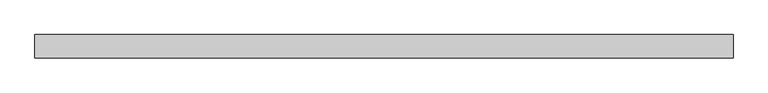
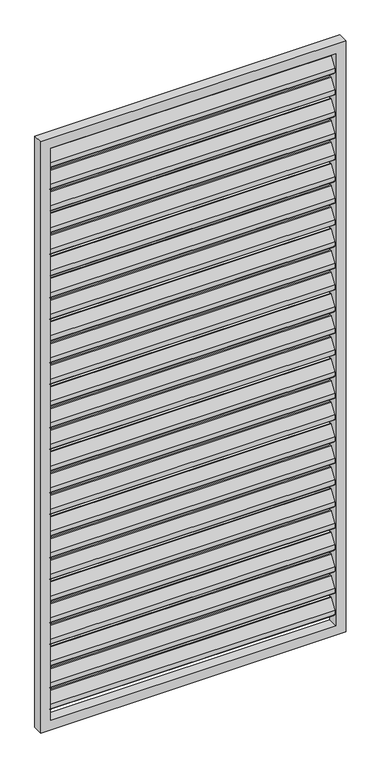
"""IFC4 building model written with IfcOpenShell, lengths in millimetres: proxy geometry, Renson_Amani_Loggia_Paro_Aluminium_Fix : Renson_Amani_Loggia_Paro_Aluminium_Fix."""

from ifc_helpers import new_model, si_unit, point, frame, frame_2d, origin, place, context, project, spatial, polyline, circle_curve, trimmed, segment, composite_curve, outline, extrude, source, transform, mapped, element, save


def generic_models_106a7d22(model_context):
    return source(origin(), model_context, "Body", "SweptSolid", [
        extrude(outline(composite_curve([segment(trimmed(circle_curve(frame_2d((12.6675921, 2432.6587719)), 3.0), [point((10.1515804, 2434.292689))], [point((15.6675921, 2432.6587719))], False, "CARTESIAN"), True, "CONTINUOUS"), segment(polyline([(15.6675921, 2432.6587719), (15.6675921, 2414.2979873)]), True, "CONTINUOUS"), segment(trimmed(circle_curve(frame_2d((12.6675921, 2414.2979873)), 3.0), [point((15.6675921, 2414.2979873))], [point((15.1836038, 2412.6640702))], False, "CARTESIAN"), True, "CONTINUOUS"), segment(polyline([(15.1836038, 2412.6640702), (-8.8163962, 2375.707311)]), True, "CONTINUOUS"), segment(trimmed(circle_curve(frame_2d((-11.3324079, 2377.3412281)), 3.0), [point((-8.8163962, 2375.707311))], [point((-14.3324079, 2377.3412281))], False, "CARTESIAN"), True, "CONTINUOUS"), segment(polyline([(-14.3324079, 2377.3412281), (-14.3324079, 2396.5906532), (10.1515804, 2434.292689)]), True, "CONTINUOUS")], self_intersect=False)), frame((-560.0, 0.0, 0.0), z_axis=(1.0, 0.0, 0.0), x_axis=(0.0, 1.0, 0.0)), (0.0, 0.0, 1.0), 1120.0),
        extrude(outline(composite_curve([segment(trimmed(circle_curve(frame_2d((12.6675921, 2342.6587719)), 3.0), [point((10.1515804, 2344.292689))], [point((15.6675921, 2342.6587719))], False, "CARTESIAN"), True, "CONTINUOUS"), segment(polyline([(15.6675921, 2342.6587719), (15.6675921, 2324.2979873)]), True, "CONTINUOUS"), segment(trimmed(circle_curve(frame_2d((12.6675921, 2324.2979873)), 3.0), [point((15.6675921, 2324.2979873))], [point((15.1836038, 2322.6640702))], False, "CARTESIAN"), True, "CONTINUOUS"), segment(polyline([(15.1836038, 2322.6640702), (-8.8163962, 2285.707311)]), True, "CONTINUOUS"), segment(trimmed(circle_curve(frame_2d((-11.3324079, 2287.3412281)), 3.0), [point((-8.8163962, 2285.707311))], [point((-14.3324079, 2287.3412281))], False, "CARTESIAN"), True, "CONTINUOUS"), segment(polyline([(-14.3324079, 2287.3412281), (-14.3324079, 2306.5906532), (10.1515804, 2344.292689)]), True, "CONTINUOUS")], self_intersect=False)), frame((-560.0, 0.0, 0.0), z_axis=(1.0, 0.0, 0.0), x_axis=(0.0, 1.0, 0.0)), (0.0, 0.0, 1.0), 1120.0),
        extrude(outline(composite_curve([segment(trimmed(circle_curve(frame_2d((12.6675921, 2252.6587719)), 3.0), [point((10.1515804, 2254.292689))], [point((15.6675921, 2252.6587719))], False, "CARTESIAN"), True, "CONTINUOUS"), segment(polyline([(15.6675921, 2252.6587719), (15.6675921, 2234.2979873)]), True, "CONTINUOUS"), segment(trimmed(circle_curve(frame_2d((12.6675921, 2234.2979873)), 3.0), [point((15.6675921, 2234.2979873))], [point((15.1836038, 2232.6640702))], False, "CARTESIAN"), True, "CONTINUOUS"), segment(polyline([(15.1836038, 2232.6640702), (-8.8163962, 2195.707311)]), True, "CONTINUOUS"), segment(trimmed(circle_curve(frame_2d((-11.3324079, 2197.3412281)), 3.0), [point((-8.8163962, 2195.707311))], [point((-14.3324079, 2197.3412281))], False, "CARTESIAN"), True, "CONTINUOUS"), segment(polyline([(-14.3324079, 2197.3412281), (-14.3324079, 2216.5906532), (10.1515804, 2254.292689)]), True, "CONTINUOUS")], self_intersect=False)), frame((-560.0, 0.0, 0.0), z_axis=(1.0, 0.0, 0.0), x_axis=(0.0, 1.0, 0.0)), (0.0, 0.0, 1.0), 1120.0),
        extrude(outline(composite_curve([segment(trimmed(circle_curve(frame_2d((12.6675921, 2162.6587719)), 3.0), [point((10.1515804, 2164.292689))], [point((15.6675921, 2162.6587719))], False, "CARTESIAN"), True, "CONTINUOUS"), segment(polyline([(15.6675921, 2162.6587719), (15.6675921, 2144.2979873)]), True, "CONTINUOUS"), segment(trimmed(circle_curve(frame_2d((12.6675921, 2144.2979873)), 3.0), [point((15.6675921, 2144.2979873))], [point((15.1836038, 2142.6640702))], False, "CARTESIAN"), True, "CONTINUOUS"), segment(polyline([(15.1836038, 2142.6640702), (-8.8163962, 2105.707311)]), True, "CONTINUOUS"), segment(trimmed(circle_curve(frame_2d((-11.3324079, 2107.3412281)), 3.0), [point((-8.8163962, 2105.707311))], [point((-14.3324079, 2107.3412281))], False, "CARTESIAN"), True, "CONTINUOUS"), segment(polyline([(-14.3324079, 2107.3412281), (-14.3324079, 2126.5906532), (10.1515804, 2164.292689)]), True, "CONTINUOUS")], self_intersect=False)), frame((-560.0, 0.0, 0.0), z_axis=(1.0, 0.0, 0.0), x_axis=(0.0, 1.0, 0.0)), (0.0, 0.0, 1.0), 1120.0),
        extrude(outline(composite_curve([segment(trimmed(circle_curve(frame_2d((12.6675921, 2072.6587719)), 3.0), [point((10.1515804, 2074.292689))], [point((15.6675921, 2072.6587719))], False, "CARTESIAN"), True, "CONTINUOUS"), segment(polyline([(15.6675921, 2072.6587719), (15.6675921, 2054.2979873)]), True, "CONTINUOUS"), segment(trimmed(circle_curve(frame_2d((12.6675921, 2054.2979873)), 3.0), [point((15.6675921, 2054.2979873))], [point((15.1836038, 2052.6640702))], False, "CARTESIAN"), True, "CONTINUOUS"), segment(polyline([(15.1836038, 2052.6640702), (-8.8163962, 2015.707311)]), True, "CONTINUOUS"), segment(trimmed(circle_curve(frame_2d((-11.3324079, 2017.3412281)), 3.0), [point((-8.8163962, 2015.707311))], [point((-14.3324079, 2017.3412281))], False, "CARTESIAN"), True, "CONTINUOUS"), segment(polyline([(-14.3324079, 2017.3412281), (-14.3324079, 2036.5906532), (10.1515804, 2074.292689)]), True, "CONTINUOUS")], self_intersect=False)), frame((-560.0, 0.0, 0.0), z_axis=(1.0, 0.0, 0.0), x_axis=(0.0, 1.0, 0.0)), (0.0, 0.0, 1.0), 1120.0),
        extrude(outline(composite_curve([segment(trimmed(circle_curve(frame_2d((12.6675921, 1982.6587719)), 3.0), [point((10.1515804, 1984.292689))], [point((15.6675921, 1982.6587719))], False, "CARTESIAN"), True, "CONTINUOUS"), segment(polyline([(15.6675921, 1982.6587719), (15.6675921, 1964.2979873)]), True, "CONTINUOUS"), segment(trimmed(circle_curve(frame_2d((12.6675921, 1964.2979873)), 3.0), [point((15.6675921, 1964.2979873))], [point((15.1836038, 1962.6640702))], False, "CARTESIAN"), True, "CONTINUOUS"), segment(polyline([(15.1836038, 1962.6640702), (-8.8163962, 1925.707311)]), True, "CONTINUOUS"), segment(trimmed(circle_curve(frame_2d((-11.3324079, 1927.3412281)), 3.0), [point((-8.8163962, 1925.707311))], [point((-14.3324079, 1927.3412281))], False, "CARTESIAN"), True, "CONTINUOUS"), segment(polyline([(-14.3324079, 1927.3412281), (-14.3324079, 1946.5906532), (10.1515804, 1984.292689)]), True, "CONTINUOUS")], self_intersect=False)), frame((-560.0, 0.0, 0.0), z_axis=(1.0, 0.0, 0.0), x_axis=(0.0, 1.0, 0.0)), (0.0, 0.0, 1.0), 1120.0),
        extrude(outline(composite_curve([segment(trimmed(circle_curve(frame_2d((12.6675921, 1892.6587719)), 3.0), [point((10.1515804, 1894.292689))], [point((15.6675921, 1892.6587719))], False, "CARTESIAN"), True, "CONTINUOUS"), segment(polyline([(15.6675921, 1892.6587719), (15.6675921, 1874.2979873)]), True, "CONTINUOUS"), segment(trimmed(circle_curve(frame_2d((12.6675921, 1874.2979873)), 3.0), [point((15.6675921, 1874.2979873))], [point((15.1836038, 1872.6640702))], False, "CARTESIAN"), True, "CONTINUOUS"), segment(polyline([(15.1836038, 1872.6640702), (-8.8163962, 1835.707311)]), True, "CONTINUOUS"), segment(trimmed(circle_curve(frame_2d((-11.3324079, 1837.3412281)), 3.0), [point((-8.8163962, 1835.707311))], [point((-14.3324079, 1837.3412281))], False, "CARTESIAN"), True, "CONTINUOUS"), segment(polyline([(-14.3324079, 1837.3412281), (-14.3324079, 1856.5906532), (10.1515804, 1894.292689)]), True, "CONTINUOUS")], self_intersect=False)), frame((-560.0, 0.0, 0.0), z_axis=(1.0, 0.0, 0.0), x_axis=(0.0, 1.0, 0.0)), (0.0, 0.0, 1.0), 1120.0),
        extrude(outline(composite_curve([segment(trimmed(circle_curve(frame_2d((12.6675921, 1802.6587719)), 3.0), [point((10.1515804, 1804.292689))], [point((15.6675921, 1802.6587719))], False, "CARTESIAN"), True, "CONTINUOUS"), segment(polyline([(15.6675921, 1802.6587719), (15.6675921, 1784.2979873)]), True, "CONTINUOUS"), segment(trimmed(circle_curve(frame_2d((12.6675921, 1784.2979873)), 3.0), [point((15.6675921, 1784.2979873))], [point((15.1836038, 1782.6640702))], False, "CARTESIAN"), True, "CONTINUOUS"), segment(polyline([(15.1836038, 1782.6640702), (-8.8163962, 1745.707311)]), True, "CONTINUOUS"), segment(trimmed(circle_curve(frame_2d((-11.3324079, 1747.3412281)), 3.0), [point((-8.8163962, 1745.707311))], [point((-14.3324079, 1747.3412281))], False, "CARTESIAN"), True, "CONTINUOUS"), segment(polyline([(-14.3324079, 1747.3412281), (-14.3324079, 1766.5906532), (10.1515804, 1804.292689)]), True, "CONTINUOUS")], self_intersect=False)), frame((-560.0, 0.0, 0.0), z_axis=(1.0, 0.0, 0.0), x_axis=(0.0, 1.0, 0.0)), (0.0, 0.0, 1.0), 1120.0),
        extrude(outline(composite_curve([segment(trimmed(circle_curve(frame_2d((12.6675921, 1712.6587719)), 3.0), [point((10.1515804, 1714.292689))], [point((15.6675921, 1712.6587719))], False, "CARTESIAN"), True, "CONTINUOUS"), segment(polyline([(15.6675921, 1712.6587719), (15.6675921, 1694.2979873)]), True, "CONTINUOUS"), segment(trimmed(circle_curve(frame_2d((12.6675921, 1694.2979873)), 3.0), [point((15.6675921, 1694.2979873))], [point((15.1836038, 1692.6640702))], False, "CARTESIAN"), True, "CONTINUOUS"), segment(polyline([(15.1836038, 1692.6640702), (-8.8163962, 1655.707311)]), True, "CONTINUOUS"), segment(trimmed(circle_curve(frame_2d((-11.3324079, 1657.3412281)), 3.0), [point((-8.8163962, 1655.707311))], [point((-14.3324079, 1657.3412281))], False, "CARTESIAN"), True, "CONTINUOUS"), segment(polyline([(-14.3324079, 1657.3412281), (-14.3324079, 1676.5906532), (10.1515804, 1714.292689)]), True, "CONTINUOUS")], self_intersect=False)), frame((-560.0, 0.0, 0.0), z_axis=(1.0, 0.0, 0.0), x_axis=(0.0, 1.0, 0.0)), (0.0, 0.0, 1.0), 1120.0),
        extrude(outline(composite_curve([segment(trimmed(circle_curve(frame_2d((12.6675921, 1622.6587719)), 3.0), [point((10.1515804, 1624.292689))], [point((15.6675921, 1622.6587719))], False, "CARTESIAN"), True, "CONTINUOUS"), segment(polyline([(15.6675921, 1622.6587719), (15.6675921, 1604.2979873)]), True, "CONTINUOUS"), segment(trimmed(circle_curve(frame_2d((12.6675921, 1604.2979873)), 3.0), [point((15.6675921, 1604.2979873))], [point((15.1836038, 1602.6640702))], False, "CARTESIAN"), True, "CONTINUOUS"), segment(polyline([(15.1836038, 1602.6640702), (-8.8163962, 1565.707311)]), True, "CONTINUOUS"), segment(trimmed(circle_curve(frame_2d((-11.3324079, 1567.3412281)), 3.0), [point((-8.8163962, 1565.707311))], [point((-14.3324079, 1567.3412281))], False, "CARTESIAN"), True, "CONTINUOUS"), segment(polyline([(-14.3324079, 1567.3412281), (-14.3324079, 1586.5906532), (10.1515804, 1624.292689)]), True, "CONTINUOUS")], self_intersect=False)), frame((-560.0, 0.0, 0.0), z_axis=(1.0, 0.0, 0.0), x_axis=(0.0, 1.0, 0.0)), (0.0, 0.0, 1.0), 1120.0),
        extrude(outline(composite_curve([segment(trimmed(circle_curve(frame_2d((12.6675921, 1532.6587719)), 3.0), [point((10.1515804, 1534.292689))], [point((15.6675921, 1532.6587719))], False, "CARTESIAN"), True, "CONTINUOUS"), segment(polyline([(15.6675921, 1532.6587719), (15.6675921, 1514.2979873)]), True, "CONTINUOUS"), segment(trimmed(circle_curve(frame_2d((12.6675921, 1514.2979873)), 3.0), [point((15.6675921, 1514.2979873))], [point((15.1836038, 1512.6640702))], False, "CARTESIAN"), True, "CONTINUOUS"), segment(polyline([(15.1836038, 1512.6640702), (-8.8163962, 1475.707311)]), True, "CONTINUOUS"), segment(trimmed(circle_curve(frame_2d((-11.3324079, 1477.3412281)), 3.0), [point((-8.8163962, 1475.707311))], [point((-14.3324079, 1477.3412281))], False, "CARTESIAN"), True, "CONTINUOUS"), segment(polyline([(-14.3324079, 1477.3412281), (-14.3324079, 1496.5906532), (10.1515804, 1534.292689)]), True, "CONTINUOUS")], self_intersect=False)), frame((-560.0, 0.0, 0.0), z_axis=(1.0, 0.0, 0.0), x_axis=(0.0, 1.0, 0.0)), (0.0, 0.0, 1.0), 1120.0),
        extrude(outline(composite_curve([segment(trimmed(circle_curve(frame_2d((12.6675921, 1442.6587719)), 3.0), [point((10.1515804, 1444.292689))], [point((15.6675921, 1442.6587719))], False, "CARTESIAN"), True, "CONTINUOUS"), segment(polyline([(15.6675921, 1442.6587719), (15.6675921, 1424.2979873)]), True, "CONTINUOUS"), segment(trimmed(circle_curve(frame_2d((12.6675921, 1424.2979873)), 3.0), [point((15.6675921, 1424.2979873))], [point((15.1836038, 1422.6640702))], False, "CARTESIAN"), True, "CONTINUOUS"), segment(polyline([(15.1836038, 1422.6640702), (-8.8163962, 1385.707311)]), True, "CONTINUOUS"), segment(trimmed(circle_curve(frame_2d((-11.3324079, 1387.3412281)), 3.0), [point((-8.8163962, 1385.707311))], [point((-14.3324079, 1387.3412281))], False, "CARTESIAN"), True, "CONTINUOUS"), segment(polyline([(-14.3324079, 1387.3412281), (-14.3324079, 1406.5906532), (10.1515804, 1444.292689)]), True, "CONTINUOUS")], self_intersect=False)), frame((-560.0, 0.0, 0.0), z_axis=(1.0, 0.0, 0.0), x_axis=(0.0, 1.0, 0.0)), (0.0, 0.0, 1.0), 1120.0),
        extrude(outline(composite_curve([segment(trimmed(circle_curve(frame_2d((12.6675921, 1352.6587719)), 3.0), [point((10.1515804, 1354.292689))], [point((15.6675921, 1352.6587719))], False, "CARTESIAN"), True, "CONTINUOUS"), segment(polyline([(15.6675921, 1352.6587719), (15.6675921, 1334.2979873)]), True, "CONTINUOUS"), segment(trimmed(circle_curve(frame_2d((12.6675921, 1334.2979873)), 3.0), [point((15.6675921, 1334.2979873))], [point((15.1836038, 1332.6640702))], False, "CARTESIAN"), True, "CONTINUOUS"), segment(polyline([(15.1836038, 1332.6640702), (-8.8163962, 1295.707311)]), True, "CONTINUOUS"), segment(trimmed(circle_curve(frame_2d((-11.3324079, 1297.3412281)), 3.0), [point((-8.8163962, 1295.707311))], [point((-14.3324079, 1297.3412281))], False, "CARTESIAN"), True, "CONTINUOUS"), segment(polyline([(-14.3324079, 1297.3412281), (-14.3324079, 1316.5906532), (10.1515804, 1354.292689)]), True, "CONTINUOUS")], self_intersect=False)), frame((-560.0, 0.0, 0.0), z_axis=(1.0, 0.0, 0.0), x_axis=(0.0, 1.0, 0.0)), (0.0, 0.0, 1.0), 1120.0),
        extrude(outline(composite_curve([segment(trimmed(circle_curve(frame_2d((12.6675921, 1262.6587719)), 3.0), [point((10.1515804, 1264.292689))], [point((15.6675921, 1262.6587719))], False, "CARTESIAN"), True, "CONTINUOUS"), segment(polyline([(15.6675921, 1262.6587719), (15.6675921, 1244.2979873)]), True, "CONTINUOUS"), segment(trimmed(circle_curve(frame_2d((12.6675921, 1244.2979873)), 3.0), [point((15.6675921, 1244.2979873))], [point((15.1836038, 1242.6640702))], False, "CARTESIAN"), True, "CONTINUOUS"), segment(polyline([(15.1836038, 1242.6640702), (-8.8163962, 1205.707311)]), True, "CONTINUOUS"), segment(trimmed(circle_curve(frame_2d((-11.3324079, 1207.3412281)), 3.0), [point((-8.8163962, 1205.707311))], [point((-14.3324079, 1207.3412281))], False, "CARTESIAN"), True, "CONTINUOUS"), segment(polyline([(-14.3324079, 1207.3412281), (-14.3324079, 1226.5906532), (10.1515804, 1264.292689)]), True, "CONTINUOUS")], self_intersect=False)), frame((-560.0, 0.0, 0.0), z_axis=(1.0, 0.0, 0.0), x_axis=(0.0, 1.0, 0.0)), (0.0, 0.0, 1.0), 1120.0),
        extrude(outline(composite_curve([segment(trimmed(circle_curve(frame_2d((12.6675921, 1172.6587719)), 3.0), [point((10.1515804, 1174.292689))], [point((15.6675921, 1172.6587719))], False, "CARTESIAN"), True, "CONTINUOUS"), segment(polyline([(15.6675921, 1172.6587719), (15.6675921, 1154.2979873)]), True, "CONTINUOUS"), segment(trimmed(circle_curve(frame_2d((12.6675921, 1154.2979873)), 3.0), [point((15.6675921, 1154.2979873))], [point((15.1836038, 1152.6640702))], False, "CARTESIAN"), True, "CONTINUOUS"), segment(polyline([(15.1836038, 1152.6640702), (-8.8163962, 1115.707311)]), True, "CONTINUOUS"), segment(trimmed(circle_curve(frame_2d((-11.3324079, 1117.3412281)), 3.0), [point((-8.8163962, 1115.707311))], [point((-14.3324079, 1117.3412281))], False, "CARTESIAN"), True, "CONTINUOUS"), segment(polyline([(-14.3324079, 1117.3412281), (-14.3324079, 1136.5906532), (10.1515804, 1174.292689)]), True, "CONTINUOUS")], self_intersect=False)), frame((-560.0, 0.0, 0.0), z_axis=(1.0, 0.0, 0.0), x_axis=(0.0, 1.0, 0.0)), (0.0, 0.0, 1.0), 1120.0),
        extrude(outline(composite_curve([segment(trimmed(circle_curve(frame_2d((12.6675921, 1082.6587719)), 3.0), [point((10.1515804, 1084.292689))], [point((15.6675921, 1082.6587719))], False, "CARTESIAN"), True, "CONTINUOUS"), segment(polyline([(15.6675921, 1082.6587719), (15.6675921, 1064.2979873)]), True, "CONTINUOUS"), segment(trimmed(circle_curve(frame_2d((12.6675921, 1064.2979873)), 3.0), [point((15.6675921, 1064.2979873))], [point((15.1836038, 1062.6640702))], False, "CARTESIAN"), True, "CONTINUOUS"), segment(polyline([(15.1836038, 1062.6640702), (-8.8163962, 1025.707311)]), True, "CONTINUOUS"), segment(trimmed(circle_curve(frame_2d((-11.3324079, 1027.3412281)), 3.0), [point((-8.8163962, 1025.707311))], [point((-14.3324079, 1027.3412281))], False, "CARTESIAN"), True, "CONTINUOUS"), segment(polyline([(-14.3324079, 1027.3412281), (-14.3324079, 1046.5906532), (10.1515804, 1084.292689)]), True, "CONTINUOUS")], self_intersect=False)), frame((-560.0, 0.0, 0.0), z_axis=(1.0, 0.0, 0.0), x_axis=(0.0, 1.0, 0.0)), (0.0, 0.0, 1.0), 1120.0),
        extrude(outline(composite_curve([segment(trimmed(circle_curve(frame_2d((12.6675921, 992.6587719)), 3.0), [point((10.1515804, 994.292689))], [point((15.6675921, 992.6587719))], False, "CARTESIAN"), True, "CONTINUOUS"), segment(polyline([(15.6675921, 992.6587719), (15.6675921, 974.2979873)]), True, "CONTINUOUS"), segment(trimmed(circle_curve(frame_2d((12.6675921, 974.2979873)), 3.0), [point((15.6675921, 974.2979873))], [point((15.1836038, 972.6640702))], False, "CARTESIAN"), True, "CONTINUOUS"), segment(polyline([(15.1836038, 972.6640702), (-8.8163962, 935.707311)]), True, "CONTINUOUS"), segment(trimmed(circle_curve(frame_2d((-11.3324079, 937.3412281)), 3.0), [point((-8.8163962, 935.707311))], [point((-14.3324079, 937.3412281))], False, "CARTESIAN"), True, "CONTINUOUS"), segment(polyline([(-14.3324079, 937.3412281), (-14.3324079, 956.5906532), (10.1515804, 994.292689)]), True, "CONTINUOUS")], self_intersect=False)), frame((-560.0, 0.0, 0.0), z_axis=(1.0, 0.0, 0.0), x_axis=(0.0, 1.0, 0.0)), (0.0, 0.0, 1.0), 1120.0),
        extrude(outline(composite_curve([segment(trimmed(circle_curve(frame_2d((12.6675921, 902.6587719)), 3.0), [point((10.1515804, 904.292689))], [point((15.6675921, 902.6587719))], False, "CARTESIAN"), True, "CONTINUOUS"), segment(polyline([(15.6675921, 902.6587719), (15.6675921, 884.2979873)]), True, "CONTINUOUS"), segment(trimmed(circle_curve(frame_2d((12.6675921, 884.2979873)), 3.0), [point((15.6675921, 884.2979873))], [point((15.1836038, 882.6640702))], False, "CARTESIAN"), True, "CONTINUOUS"), segment(polyline([(15.1836038, 882.6640702), (-8.8163962, 845.707311)]), True, "CONTINUOUS"), segment(trimmed(circle_curve(frame_2d((-11.3324079, 847.3412281)), 3.0), [point((-8.8163962, 845.707311))], [point((-14.3324079, 847.3412281))], False, "CARTESIAN"), True, "CONTINUOUS"), segment(polyline([(-14.3324079, 847.3412281), (-14.3324079, 866.5906532), (10.1515804, 904.292689)]), True, "CONTINUOUS")], self_intersect=False)), frame((-560.0, 0.0, 0.0), z_axis=(1.0, 0.0, 0.0), x_axis=(0.0, 1.0, 0.0)), (0.0, 0.0, 1.0), 1120.0),
        extrude(outline(composite_curve([segment(trimmed(circle_curve(frame_2d((12.6675921, 812.6587719)), 3.0), [point((10.1515804, 814.292689))], [point((15.6675921, 812.6587719))], False, "CARTESIAN"), True, "CONTINUOUS"), segment(polyline([(15.6675921, 812.6587719), (15.6675921, 794.2979873)]), True, "CONTINUOUS"), segment(trimmed(circle_curve(frame_2d((12.6675921, 794.2979873)), 3.0), [point((15.6675921, 794.2979873))], [point((15.1836038, 792.6640702))], False, "CARTESIAN"), True, "CONTINUOUS"), segment(polyline([(15.1836038, 792.6640702), (-8.8163962, 755.707311)]), True, "CONTINUOUS"), segment(trimmed(circle_curve(frame_2d((-11.3324079, 757.3412281)), 3.0), [point((-8.8163962, 755.707311))], [point((-14.3324079, 757.3412281))], False, "CARTESIAN"), True, "CONTINUOUS"), segment(polyline([(-14.3324079, 757.3412281), (-14.3324079, 776.5906532), (10.1515804, 814.292689)]), True, "CONTINUOUS")], self_intersect=False)), frame((-560.0, 0.0, 0.0), z_axis=(1.0, 0.0, 0.0), x_axis=(0.0, 1.0, 0.0)), (0.0, 0.0, 1.0), 1120.0),
        extrude(outline(composite_curve([segment(trimmed(circle_curve(frame_2d((12.6675921, 722.6587719)), 3.0), [point((10.1515804, 724.292689))], [point((15.6675921, 722.6587719))], False, "CARTESIAN"), True, "CONTINUOUS"), segment(polyline([(15.6675921, 722.6587719), (15.6675921, 704.2979873)]), True, "CONTINUOUS"), segment(trimmed(circle_curve(frame_2d((12.6675921, 704.2979873)), 3.0), [point((15.6675921, 704.2979873))], [point((15.1836038, 702.6640702))], False, "CARTESIAN"), True, "CONTINUOUS"), segment(polyline([(15.1836038, 702.6640702), (-8.8163962, 665.707311)]), True, "CONTINUOUS"), segment(trimmed(circle_curve(frame_2d((-11.3324079, 667.3412281)), 3.0), [point((-8.8163962, 665.707311))], [point((-14.3324079, 667.3412281))], False, "CARTESIAN"), True, "CONTINUOUS"), segment(polyline([(-14.3324079, 667.3412281), (-14.3324079, 686.5906532), (10.1515804, 724.292689)]), True, "CONTINUOUS")], self_intersect=False)), frame((-560.0, 0.0, 0.0), z_axis=(1.0, 0.0, 0.0), x_axis=(0.0, 1.0, 0.0)), (0.0, 0.0, 1.0), 1120.0),
        extrude(outline(composite_curve([segment(trimmed(circle_curve(frame_2d((12.6675921, 632.6587719)), 3.0), [point((10.1515804, 634.292689))], [point((15.6675921, 632.6587719))], False, "CARTESIAN"), True, "CONTINUOUS"), segment(polyline([(15.6675921, 632.6587719), (15.6675921, 614.2979873)]), True, "CONTINUOUS"), segment(trimmed(circle_curve(frame_2d((12.6675921, 614.2979873)), 3.0), [point((15.6675921, 614.2979873))], [point((15.1836038, 612.6640702))], False, "CARTESIAN"), True, "CONTINUOUS"), segment(polyline([(15.1836038, 612.6640702), (-8.8163962, 575.707311)]), True, "CONTINUOUS"), segment(trimmed(circle_curve(frame_2d((-11.3324079, 577.3412281)), 3.0), [point((-8.8163962, 575.707311))], [point((-14.3324079, 577.3412281))], False, "CARTESIAN"), True, "CONTINUOUS"), segment(polyline([(-14.3324079, 577.3412281), (-14.3324079, 596.5906532), (10.1515804, 634.292689)]), True, "CONTINUOUS")], self_intersect=False)), frame((-560.0, 0.0, 0.0), z_axis=(1.0, 0.0, 0.0), x_axis=(0.0, 1.0, 0.0)), (0.0, 0.0, 1.0), 1120.0),
        extrude(outline(composite_curve([segment(trimmed(circle_curve(frame_2d((12.6675921, 542.6587719)), 3.0), [point((10.1515804, 544.292689))], [point((15.6675921, 542.6587719))], False, "CARTESIAN"), True, "CONTINUOUS"), segment(polyline([(15.6675921, 542.6587719), (15.6675921, 524.2979873)]), True, "CONTINUOUS"), segment(trimmed(circle_curve(frame_2d((12.6675921, 524.2979873)), 3.0), [point((15.6675921, 524.2979873))], [point((15.1836038, 522.6640702))], False, "CARTESIAN"), True, "CONTINUOUS"), segment(polyline([(15.1836038, 522.6640702), (-8.8163962, 485.707311)]), True, "CONTINUOUS"), segment(trimmed(circle_curve(frame_2d((-11.3324079, 487.3412281)), 3.0), [point((-8.8163962, 485.707311))], [point((-14.3324079, 487.3412281))], False, "CARTESIAN"), True, "CONTINUOUS"), segment(polyline([(-14.3324079, 487.3412281), (-14.3324079, 506.5906532), (10.1515804, 544.292689)]), True, "CONTINUOUS")], self_intersect=False)), frame((-560.0, 0.0, 0.0), z_axis=(1.0, 0.0, 0.0), x_axis=(0.0, 1.0, 0.0)), (0.0, 0.0, 1.0), 1120.0),
        extrude(outline(composite_curve([segment(trimmed(circle_curve(frame_2d((12.6675921, 452.6587719)), 3.0), [point((10.1515804, 454.292689))], [point((15.6675921, 452.6587719))], False, "CARTESIAN"), True, "CONTINUOUS"), segment(polyline([(15.6675921, 452.6587719), (15.6675921, 434.2979873)]), True, "CONTINUOUS"), segment(trimmed(circle_curve(frame_2d((12.6675921, 434.2979873)), 3.0), [point((15.6675921, 434.2979873))], [point((15.1836038, 432.6640702))], False, "CARTESIAN"), True, "CONTINUOUS"), segment(polyline([(15.1836038, 432.6640702), (-8.8163962, 395.707311)]), True, "CONTINUOUS"), segment(trimmed(circle_curve(frame_2d((-11.3324079, 397.3412281)), 3.0), [point((-8.8163962, 395.707311))], [point((-14.3324079, 397.3412281))], False, "CARTESIAN"), True, "CONTINUOUS"), segment(polyline([(-14.3324079, 397.3412281), (-14.3324079, 416.5906532), (10.1515804, 454.292689)]), True, "CONTINUOUS")], self_intersect=False)), frame((-560.0, 0.0, 0.0), z_axis=(1.0, 0.0, 0.0), x_axis=(0.0, 1.0, 0.0)), (0.0, 0.0, 1.0), 1120.0),
        extrude(outline(composite_curve([segment(trimmed(circle_curve(frame_2d((12.6675921, 362.6587719)), 3.0), [point((10.1515804, 364.292689))], [point((15.6675921, 362.6587719))], False, "CARTESIAN"), True, "CONTINUOUS"), segment(polyline([(15.6675921, 362.6587719), (15.6675921, 344.2979873)]), True, "CONTINUOUS"), segment(trimmed(circle_curve(frame_2d((12.6675921, 344.2979873)), 3.0), [point((15.6675921, 344.2979873))], [point((15.1836038, 342.6640702))], False, "CARTESIAN"), True, "CONTINUOUS"), segment(polyline([(15.1836038, 342.6640702), (-8.8163962, 305.707311)]), True, "CONTINUOUS"), segment(trimmed(circle_curve(frame_2d((-11.3324079, 307.3412281)), 3.0), [point((-8.8163962, 305.707311))], [point((-14.3324079, 307.3412281))], False, "CARTESIAN"), True, "CONTINUOUS"), segment(polyline([(-14.3324079, 307.3412281), (-14.3324079, 326.5906532), (10.1515804, 364.292689)]), True, "CONTINUOUS")], self_intersect=False)), frame((-560.0, 0.0, 0.0), z_axis=(1.0, 0.0, 0.0), x_axis=(0.0, 1.0, 0.0)), (0.0, 0.0, 1.0), 1120.0),
        extrude(outline(composite_curve([segment(trimmed(circle_curve(frame_2d((12.6675921, 272.6587719)), 3.0), [point((10.1515804, 274.292689))], [point((15.6675921, 272.6587719))], False, "CARTESIAN"), True, "CONTINUOUS"), segment(polyline([(15.6675921, 272.6587719), (15.6675921, 254.2979873)]), True, "CONTINUOUS"), segment(trimmed(circle_curve(frame_2d((12.6675921, 254.2979873)), 3.0), [point((15.6675921, 254.2979873))], [point((15.1836038, 252.6640702))], False, "CARTESIAN"), True, "CONTINUOUS"), segment(polyline([(15.1836038, 252.6640702), (-8.8163962, 215.707311)]), True, "CONTINUOUS"), segment(trimmed(circle_curve(frame_2d((-11.3324079, 217.3412281)), 3.0), [point((-8.8163962, 215.707311))], [point((-14.3324079, 217.3412281))], False, "CARTESIAN"), True, "CONTINUOUS"), segment(polyline([(-14.3324079, 217.3412281), (-14.3324079, 236.5906532), (10.1515804, 274.292689)]), True, "CONTINUOUS")], self_intersect=False)), frame((-560.0, 0.0, 0.0), z_axis=(1.0, 0.0, 0.0), x_axis=(0.0, 1.0, 0.0)), (0.0, 0.0, 1.0), 1120.0),
        extrude(outline(composite_curve([segment(trimmed(circle_curve(frame_2d((12.6675921, 182.6587719)), 3.0), [point((10.1515804, 184.292689))], [point((15.6675921, 182.6587719))], False, "CARTESIAN"), True, "CONTINUOUS"), segment(polyline([(15.6675921, 182.6587719), (15.6675921, 164.2979873)]), True, "CONTINUOUS"), segment(trimmed(circle_curve(frame_2d((12.6675921, 164.2979873)), 3.0), [point((15.6675921, 164.2979873))], [point((15.1836038, 162.6640702))], False, "CARTESIAN"), True, "CONTINUOUS"), segment(polyline([(15.1836038, 162.6640702), (-8.8163962, 125.707311)]), True, "CONTINUOUS"), segment(trimmed(circle_curve(frame_2d((-11.3324079, 127.3412281)), 3.0), [point((-8.8163962, 125.707311))], [point((-14.3324079, 127.3412281))], False, "CARTESIAN"), True, "CONTINUOUS"), segment(polyline([(-14.3324079, 127.3412281), (-14.3324079, 146.5906532), (10.1515804, 184.292689)]), True, "CONTINUOUS")], self_intersect=False)), frame((-560.0, 0.0, 0.0), z_axis=(1.0, 0.0, 0.0), x_axis=(0.0, 1.0, 0.0)), (0.0, 0.0, 1.0), 1120.0),
        extrude(outline(polyline([(2500.0, -600.0), (45.0, -600.0), (45.0, 600.0), (2500.0, 600.0), (2500.0, -600.0)]), holes=[polyline([(2460.0, 560.0), (85.0, 560.0), (85.0, -560.0), (2460.0, -560.0), (2460.0, 560.0)])]), frame((0.0, -20.0, 0.0), z_axis=(0.0, 1.0, 0.0), x_axis=(0.0, 0.0, 1.0)), (0.0, 0.0, 1.0), 40.0),
    ])


if __name__ == "__main__":
    model = new_model("IFC4")
    model_context = context("Model", 3, world=origin())
    ifc_project = project(units=[si_unit("LENGTHUNIT", "METRE", prefix="MILLI")], contexts=[model_context])
    site = spatial("IfcSite", under=ifc_project)
    building = spatial("IfcBuilding", under=site)
    placement = place(None, origin())
    generic_models_shape = generic_models_106a7d22(model_context)
    element("IfcBuildingElementProxy", 1, Name="Renson_Amani_Loggia_Paro_Aluminium_Fix : Renson_Amani_Loggia_Paro_Aluminium_Fix", ObjectType="Renson_Amani_Loggia_Paro_Aluminium_Fix : Renson_Amani_Loggia_Paro_Aluminium_Fix", at=placement, inside=building, context=model_context, shape_type="MappedRepresentation", body=[
        mapped(generic_models_shape, transform((0.0, 0.0, 0.0), x_axis=(1.0, 0.0, 0.0), y_axis=(0.0, 1.0, 0.0), z_axis=(0.0, 0.0, 1.0))),
    ])
    save(model, "model.ifc")
